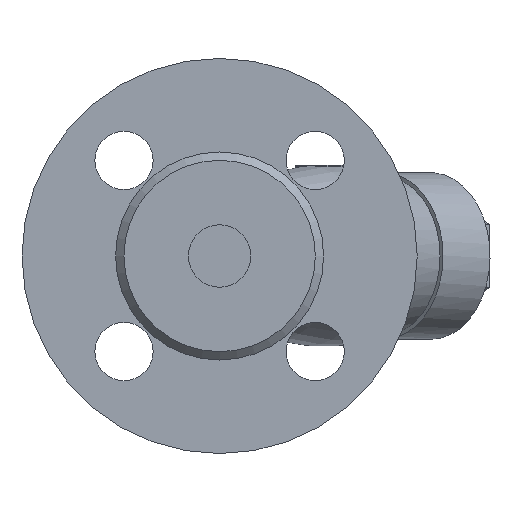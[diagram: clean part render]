
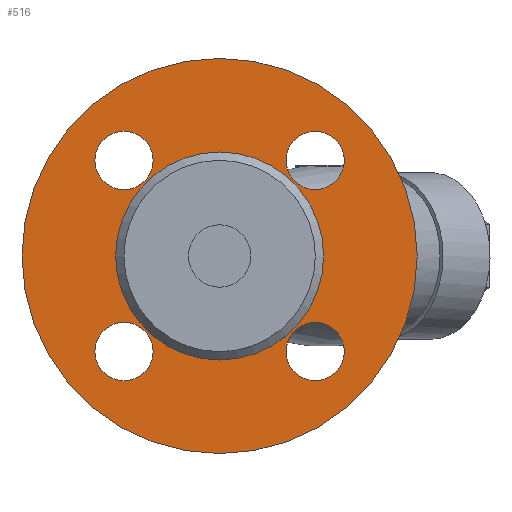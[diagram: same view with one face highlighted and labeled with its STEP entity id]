
A CAD part, left-side view. The second image highlights one B-rep face of the part: STEP entity #516.
In plain terms, the highlighted planar face has unit normal (-1, 0, 0).
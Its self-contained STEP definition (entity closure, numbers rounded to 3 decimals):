
#516=ADVANCED_FACE('',(#8370,#8372,#8374,#8376,#8378,#8380),#8382,.T.);
#8370=FACE_BOUND('',#8371,.T.);
#8371=EDGE_LOOP('',(#15207,#15208));
#8372=FACE_BOUND('',#8373,.T.);
#8373=EDGE_LOOP('',(#15209));
#8374=FACE_BOUND('',#8375,.T.);
#8375=EDGE_LOOP('',(#15210));
#8376=FACE_BOUND('',#8377,.T.);
#8377=EDGE_LOOP('',(#15211));
#8378=FACE_BOUND('',#8379,.T.);
#8379=EDGE_LOOP('',(#15212));
#8380=FACE_BOUND('',#8381,.T.);
#8381=EDGE_LOOP('',(#15213,#15214));
#8382=PLANE('',#8383);
#8383=AXIS2_PLACEMENT_3D('',#8384,#8385,#8386);
#8384=CARTESIAN_POINT('',(5381.277,3292.155,0.));
#8385=DIRECTION('',(-1.,0.,0.));
#8386=DIRECTION('',(0.,0.,1.));
#15207=ORIENTED_EDGE('',*,*,#20222,.F.);
#15208=ORIENTED_EDGE('',*,*,#20223,.F.);
#15209=ORIENTED_EDGE('',*,*,#20211,.T.);
#15210=ORIENTED_EDGE('',*,*,#20213,.T.);
#15211=ORIENTED_EDGE('',*,*,#20215,.T.);
#15212=ORIENTED_EDGE('',*,*,#20209,.T.);
#15213=ORIENTED_EDGE('',*,*,#20221,.T.);
#15214=ORIENTED_EDGE('',*,*,#20220,.T.);
#20209=EDGE_CURVE('',#23663,#23663,#23664,.T.);
#20211=EDGE_CURVE('',#23667,#23667,#23668,.T.);
#20213=EDGE_CURVE('',#23671,#23671,#23672,.T.);
#20215=EDGE_CURVE('',#23675,#23675,#23676,.T.);
#20220=EDGE_CURVE('',#23685,#23686,#23687,.T.);
#20221=EDGE_CURVE('',#23686,#23685,#23688,.T.);
#20222=EDGE_CURVE('',#23689,#23690,#23691,.T.);
#20223=EDGE_CURVE('',#23690,#23689,#23692,.T.);
#23663=VERTEX_POINT('',#32961);
#23664=CIRCLE('',#32962,7.);
#23667=VERTEX_POINT('',#32971);
#23668=CIRCLE('',#32972,7.);
#23671=VERTEX_POINT('',#32981);
#23672=CIRCLE('',#32982,7.);
#23675=VERTEX_POINT('',#32991);
#23676=CIRCLE('',#32992,7.);
#23685=VERTEX_POINT('',#33016);
#23686=VERTEX_POINT('',#33017);
#23687=CIRCLE('',#33018,25.);
#23688=CIRCLE('',#33022,25.);
#23689=VERTEX_POINT('',#33026);
#23690=VERTEX_POINT('',#33027);
#23691=CIRCLE('',#33028,47.5);
#23692=CIRCLE('',#33032,47.5);
#32961=CARTESIAN_POINT('',(5381.277,3214.674,-22.981));
#32962=AXIS2_PLACEMENT_3D('',#32963,#32964,#32965);
#32963=CARTESIAN_POINT('',(5381.277,3221.674,-22.981));
#32964=DIRECTION('',(1.,0.,0.));
#32965=DIRECTION('',(0.,-1.,0.));
#32971=CARTESIAN_POINT('',(5381.277,3260.636,-22.981));
#32972=AXIS2_PLACEMENT_3D('',#32973,#32974,#32975);
#32973=CARTESIAN_POINT('',(5381.277,3267.636,-22.981));
#32974=DIRECTION('',(1.,0.,0.));
#32975=DIRECTION('',(0.,-1.,0.));
#32981=CARTESIAN_POINT('',(5381.277,3260.636,22.981));
#32982=AXIS2_PLACEMENT_3D('',#32983,#32984,#32985);
#32983=CARTESIAN_POINT('',(5381.277,3267.636,22.981));
#32984=DIRECTION('',(1.,0.,0.));
#32985=DIRECTION('',(0.,-1.,0.));
#32991=CARTESIAN_POINT('',(5381.277,3214.674,22.981));
#32992=AXIS2_PLACEMENT_3D('',#32993,#32994,#32995);
#32993=CARTESIAN_POINT('',(5381.277,3221.674,22.981));
#32994=DIRECTION('',(1.,0.,0.));
#32995=DIRECTION('',(0.,-1.,0.));
#33016=CARTESIAN_POINT('',(5381.277,3219.655,0.));
#33017=CARTESIAN_POINT('',(5381.277,3269.655,0.));
#33018=AXIS2_PLACEMENT_3D('',#33019,#33020,#33021);
#33019=CARTESIAN_POINT('',(5381.277,3244.655,0.));
#33020=DIRECTION('',(1.,0.,0.));
#33021=DIRECTION('',(0.,-1.,0.));
#33022=AXIS2_PLACEMENT_3D('',#33023,#33024,#33025);
#33023=CARTESIAN_POINT('',(5381.277,3244.655,0.));
#33024=DIRECTION('',(1.,0.,0.));
#33025=DIRECTION('',(0.,1.,0.));
#33026=CARTESIAN_POINT('',(5381.277,3197.155,0.));
#33027=CARTESIAN_POINT('',(5381.277,3292.155,0.));
#33028=AXIS2_PLACEMENT_3D('',#33029,#33030,#33031);
#33029=CARTESIAN_POINT('',(5381.277,3244.655,0.));
#33030=DIRECTION('',(1.,0.,0.));
#33031=DIRECTION('',(0.,-1.,0.));
#33032=AXIS2_PLACEMENT_3D('',#33033,#33034,#33035);
#33033=CARTESIAN_POINT('',(5381.277,3244.655,0.));
#33034=DIRECTION('',(1.,0.,0.));
#33035=DIRECTION('',(0.,1.,0.));
